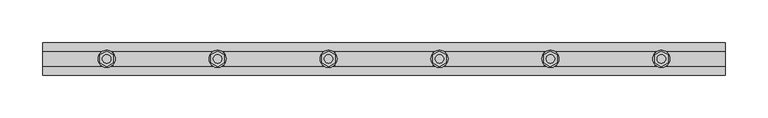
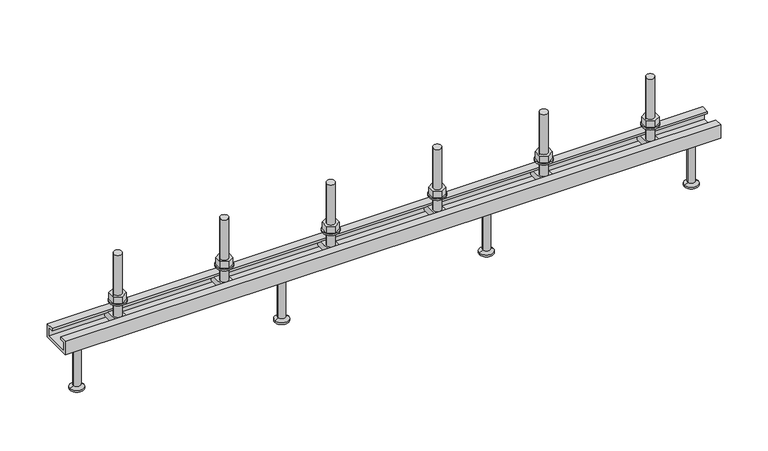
"""IFC4 building model written with IfcOpenShell, lengths in millimetres: fastener geometry, JTA-K JORDAHL® AnchorChannels : JTA-K L=800 mm."""

from ifc_helpers import new_model, si_unit, point, frame, frame_2d, origin, place, context, project, spatial, polyline, circle_curve, trimmed, segment, composite_curve, outline, extrude, source, transform, mapped, element, save
from ifc_brep_helpers import plane_surface, cylinder_surface, revolved_surface, advanced_brep


def fastener_84ff23ae(model_context):
    return source(origin(), model_context, "Body", "SolidModel", [
        extrude(outline(polyline([(595.0, 9.2376043), (603.0, 4.6188022), (603.0, -4.6188022), (595.0, -9.2376043), (587.0, -4.6188022), (587.0, 4.6188022), (595.0, 9.2376043)]), holes=[composite_curve([segment(trimmed(circle_curve(frame_2d((595.0, 0.0)), 5.0), [point((590.0, 0.0))], [point((600.0, 0.0))], True, "CARTESIAN"), True, "CONTINUOUS"), segment(trimmed(circle_curve(frame_2d((595.0, 0.0)), 5.0), [point((600.0, 0.0))], [point((590.0, 0.0))], True, "CARTESIAN"), True, "CONTINUOUS")], self_intersect=False)]), frame((0.0, 0.0, 17.0), z_axis=(0.0, 0.0, 1.0), x_axis=(1.0, 0.0, 0.0)), (0.0, 0.0, 1.0), 8.4),
        extrude(outline(composite_curve([segment(trimmed(circle_curve(frame_2d((595.0, 0.0)), 10.0), [point((585.0, 0.0))], [point((605.0, 0.0))], False, "CARTESIAN"), True, "CONTINUOUS"), segment(trimmed(circle_curve(frame_2d((595.0, 0.0)), 10.0), [point((605.0, 0.0))], [point((585.0, 0.0))], False, "CARTESIAN"), True, "CONTINUOUS")], self_intersect=False), holes=[composite_curve([segment(trimmed(circle_curve(frame_2d((595.0, 0.0)), 5.25), [point((589.75, 0.0))], [point((600.25, 0.0))], True, "CARTESIAN"), True, "CONTINUOUS"), segment(trimmed(circle_curve(frame_2d((595.0, 0.0)), 5.25), [point((600.25, 0.0))], [point((589.75, 0.0))], True, "CARTESIAN"), True, "CONTINUOUS")], self_intersect=False)]), frame((0.0, 0.0, 15.0), z_axis=(0.0, 0.0, 1.0), x_axis=(1.0, 0.0, 0.0)), (0.0, 0.0, 1.0), 2.0),
        extrude(outline(polyline([(465.0, 9.2376043), (473.0, 4.6188022), (473.0, -4.6188022), (465.0, -9.2376043), (457.0, -4.6188022), (457.0, 4.6188022), (465.0, 9.2376043)]), holes=[composite_curve([segment(trimmed(circle_curve(frame_2d((465.0, 0.0)), 5.0), [point((460.0, 0.0))], [point((470.0, 0.0))], True, "CARTESIAN"), True, "CONTINUOUS"), segment(trimmed(circle_curve(frame_2d((465.0, 0.0)), 5.0), [point((470.0, 0.0))], [point((460.0, 0.0))], True, "CARTESIAN"), True, "CONTINUOUS")], self_intersect=False)]), frame((0.0, 0.0, 17.0), z_axis=(0.0, 0.0, 1.0), x_axis=(1.0, 0.0, 0.0)), (0.0, 0.0, 1.0), 8.4),
        extrude(outline(composite_curve([segment(trimmed(circle_curve(frame_2d((465.0, 0.0)), 10.0), [point((455.0, 0.0))], [point((475.0, 0.0))], False, "CARTESIAN"), True, "CONTINUOUS"), segment(trimmed(circle_curve(frame_2d((465.0, 0.0)), 10.0), [point((475.0, 0.0))], [point((455.0, 0.0))], False, "CARTESIAN"), True, "CONTINUOUS")], self_intersect=False), holes=[composite_curve([segment(trimmed(circle_curve(frame_2d((465.0, 0.0)), 5.25), [point((459.75, 0.0))], [point((470.25, 0.0))], True, "CARTESIAN"), True, "CONTINUOUS"), segment(trimmed(circle_curve(frame_2d((465.0, 0.0)), 5.25), [point((470.25, 0.0))], [point((459.75, 0.0))], True, "CARTESIAN"), True, "CONTINUOUS")], self_intersect=False)]), frame((0.0, 0.0, 15.0), z_axis=(0.0, 0.0, 1.0), x_axis=(1.0, 0.0, 0.0)), (0.0, 0.0, 1.0), 2.0),
        extrude(outline(polyline([(335.0, 9.2376043), (343.0, 4.6188022), (343.0, -4.6188022), (335.0, -9.2376043), (327.0, -4.6188022), (327.0, 4.6188022), (335.0, 9.2376043)]), holes=[composite_curve([segment(trimmed(circle_curve(frame_2d((335.0, 0.0)), 5.0), [point((330.0, 0.0))], [point((340.0, 0.0))], True, "CARTESIAN"), True, "CONTINUOUS"), segment(trimmed(circle_curve(frame_2d((335.0, 0.0)), 5.0), [point((340.0, 0.0))], [point((330.0, 0.0))], True, "CARTESIAN"), True, "CONTINUOUS")], self_intersect=False)]), frame((0.0, 0.0, 17.0), z_axis=(0.0, 0.0, 1.0), x_axis=(1.0, 0.0, 0.0)), (0.0, 0.0, 1.0), 8.4),
        extrude(outline(composite_curve([segment(trimmed(circle_curve(frame_2d((335.0, 0.0)), 10.0), [point((325.0, 0.0))], [point((345.0, 0.0))], False, "CARTESIAN"), True, "CONTINUOUS"), segment(trimmed(circle_curve(frame_2d((335.0, 0.0)), 10.0), [point((345.0, 0.0))], [point((325.0, 0.0))], False, "CARTESIAN"), True, "CONTINUOUS")], self_intersect=False), holes=[composite_curve([segment(trimmed(circle_curve(frame_2d((335.0, 0.0)), 5.25), [point((329.75, 0.0))], [point((340.25, 0.0))], True, "CARTESIAN"), True, "CONTINUOUS"), segment(trimmed(circle_curve(frame_2d((335.0, 0.0)), 5.25), [point((340.25, 0.0))], [point((329.75, 0.0))], True, "CARTESIAN"), True, "CONTINUOUS")], self_intersect=False)]), frame((0.0, 0.0, 15.0), z_axis=(0.0, 0.0, 1.0), x_axis=(1.0, 0.0, 0.0)), (0.0, 0.0, 1.0), 2.0),
        extrude(outline(polyline([(205.0, 9.2376043), (213.0, 4.6188022), (213.0, -4.6188022), (205.0, -9.2376043), (197.0, -4.6188022), (197.0, 4.6188022), (205.0, 9.2376043)]), holes=[composite_curve([segment(trimmed(circle_curve(frame_2d((205.0, 0.0)), 5.0), [point((200.0, 0.0))], [point((210.0, 0.0))], True, "CARTESIAN"), True, "CONTINUOUS"), segment(trimmed(circle_curve(frame_2d((205.0, 0.0)), 5.0), [point((210.0, 0.0))], [point((200.0, 0.0))], True, "CARTESIAN"), True, "CONTINUOUS")], self_intersect=False)]), frame((0.0, 0.0, 17.0), z_axis=(0.0, 0.0, 1.0), x_axis=(1.0, 0.0, 0.0)), (0.0, 0.0, 1.0), 8.4),
        extrude(outline(composite_curve([segment(trimmed(circle_curve(frame_2d((205.0, 0.0)), 10.0), [point((195.0, 0.0))], [point((215.0, 0.0))], False, "CARTESIAN"), True, "CONTINUOUS"), segment(trimmed(circle_curve(frame_2d((205.0, 0.0)), 10.0), [point((215.0, 0.0))], [point((195.0, 0.0))], False, "CARTESIAN"), True, "CONTINUOUS")], self_intersect=False), holes=[composite_curve([segment(trimmed(circle_curve(frame_2d((205.0, 0.0)), 5.25), [point((199.75, 0.0))], [point((210.25, 0.0))], True, "CARTESIAN"), True, "CONTINUOUS"), segment(trimmed(circle_curve(frame_2d((205.0, 0.0)), 5.25), [point((210.25, 0.0))], [point((199.75, 0.0))], True, "CARTESIAN"), True, "CONTINUOUS")], self_intersect=False)]), frame((0.0, 0.0, 15.0), z_axis=(0.0, 0.0, 1.0), x_axis=(1.0, 0.0, 0.0)), (0.0, 0.0, 1.0), 2.0),
        advanced_brep(
        [(602.0, 16.0, -3.0), (602.0, -16.0, -3.0), (602.0, -16.0, -11.0), (602.0, 16.0, -11.0), (588.0, 16.0, -3.0), (588.0, 16.0, -11.0), (588.0, -16.0, -11.0), (588.0, -16.0, -3.0), (600.0, 0.0, -3.0), (590.0, 0.0, -3.0), (590.0, 0.0, 77.0), (600.0, 0.0, 77.0)],
        [
            (0, 1),
            (1, 2),
            (2, 3),
            (3, 0),
            (4, 5),
            (5, 6),
            (6, 7),
            (7, 4),
            (0, 4),
            (7, 1),
            (8, 9, circle_curve(frame((595.0, 0.0, -3.0), z_axis=(0.0, 0.0, -1.0), x_axis=(1.0, 0.0, 0.0)), 5.0)),
            (9, 8, circle_curve(frame((595.0, 0.0, -3.0), z_axis=(0.0, 0.0, -1.0), x_axis=(1.0, 0.0, 0.0)), 5.0)),
            (6, 2),
            (5, 3),
            (10, 11, circle_curve(frame((595.0, 0.0, 77.0), z_axis=(0.0, 0.0, 1.0), x_axis=(1.0, 0.0, 0.0)), 5.0)),
            (11, 10, circle_curve(frame((595.0, 0.0, 77.0), z_axis=(0.0, 0.0, 1.0), x_axis=(1.0, 0.0, 0.0)), 5.0)),
            (10, 9),
            (8, 11),
        ],
        [
            plane_surface(frame((602.0, -16.0, -3.0), z_axis=(1.0, 0.0, 0.0), x_axis=(0.0, -1.0, 0.0))),
            plane_surface(frame((588.0, -16.0, -3.0), z_axis=(-1.0, 0.0, 0.0), x_axis=(0.0, 1.0, 0.0))),
            plane_surface(frame((602.0, 16.0, -3.0), z_axis=(0.0, 0.0, 1.0), x_axis=(-1.0, 0.0, 0.0))),
            plane_surface(frame((602.0, -16.0, -3.0), z_axis=(0.0, -1.0, 0.0), x_axis=(-1.0, 0.0, 0.0))),
            plane_surface(frame((602.0, -16.0, -11.0), z_axis=(0.0, 0.0, -1.0), x_axis=(-1.0, 0.0, 0.0))),
            plane_surface(frame((602.0, 16.0, -11.0), z_axis=(0.0, 1.0, 0.0), x_axis=(-1.0, 0.0, 0.0))),
            plane_surface(frame((600.0, 0.0, 77.0), z_axis=(0.0, 0.0, 1.0), x_axis=(0.0, 1.0, 0.0))),
            cylinder_surface(frame((595.0, 0.0, -3.0), z_axis=(0.0, 0.0, 1.0), x_axis=(1.0, 0.0, 0.0)), 5.0),
        ],
        [
            (0, [[1, 2, 3, 4]]),
            (1, [[5, 6, 7, 8]]),
            (2, [[-1, 9, -8, 10], [11, 12]]),
            (3, [[-2, -10, -7, 13]]),
            (4, [[-3, -13, -6, 14]]),
            (5, [[-4, -14, -5, -9]]),
            (6, [[15, 16]]),
            (7, [[-15, 17, -11, 18]]),
            (7, [[-16, -18, -12, -17]]),
        ],
    ),
        advanced_brep(
        [(472.0, 16.0, -3.0), (472.0, -16.0, -3.0), (472.0, -16.0, -11.0), (472.0, 16.0, -11.0), (458.0, 16.0, -3.0), (458.0, 16.0, -11.0), (458.0, -16.0, -11.0), (458.0, -16.0, -3.0), (470.0, 0.0, -3.0), (460.0, 0.0, -3.0), (460.0, 0.0, 77.0), (470.0, 0.0, 77.0)],
        [
            (0, 1),
            (1, 2),
            (2, 3),
            (3, 0),
            (4, 5),
            (5, 6),
            (6, 7),
            (7, 4),
            (0, 4),
            (7, 1),
            (8, 9, circle_curve(frame((465.0, 0.0, -3.0), z_axis=(0.0, 0.0, -1.0), x_axis=(1.0, 0.0, 0.0)), 5.0)),
            (9, 8, circle_curve(frame((465.0, 0.0, -3.0), z_axis=(0.0, 0.0, -1.0), x_axis=(1.0, 0.0, 0.0)), 5.0)),
            (6, 2),
            (5, 3),
            (10, 11, circle_curve(frame((465.0, 0.0, 77.0), z_axis=(0.0, 0.0, 1.0), x_axis=(1.0, 0.0, 0.0)), 5.0)),
            (11, 10, circle_curve(frame((465.0, 0.0, 77.0), z_axis=(0.0, 0.0, 1.0), x_axis=(1.0, 0.0, 0.0)), 5.0)),
            (10, 9),
            (8, 11),
        ],
        [
            plane_surface(frame((472.0, -16.0, -3.0), z_axis=(1.0, 0.0, 0.0), x_axis=(0.0, -1.0, 0.0))),
            plane_surface(frame((458.0, -16.0, -3.0), z_axis=(-1.0, 0.0, 0.0), x_axis=(0.0, 1.0, 0.0))),
            plane_surface(frame((472.0, 16.0, -3.0), z_axis=(0.0, 0.0, 1.0), x_axis=(-1.0, 0.0, 0.0))),
            plane_surface(frame((472.0, -16.0, -3.0), z_axis=(0.0, -1.0, 0.0), x_axis=(-1.0, 0.0, 0.0))),
            plane_surface(frame((472.0, -16.0, -11.0), z_axis=(0.0, 0.0, -1.0), x_axis=(-1.0, 0.0, 0.0))),
            plane_surface(frame((472.0, 16.0, -11.0), z_axis=(0.0, 1.0, 0.0), x_axis=(-1.0, 0.0, 0.0))),
            plane_surface(frame((470.0, 0.0, 77.0), z_axis=(0.0, 0.0, 1.0), x_axis=(0.0, 1.0, 0.0))),
            cylinder_surface(frame((465.0, 0.0, -3.0), z_axis=(0.0, 0.0, 1.0), x_axis=(1.0, 0.0, 0.0)), 5.0),
        ],
        [
            (0, [[1, 2, 3, 4]]),
            (1, [[5, 6, 7, 8]]),
            (2, [[-1, 9, -8, 10], [11, 12]]),
            (3, [[-2, -10, -7, 13]]),
            (4, [[-3, -13, -6, 14]]),
            (5, [[-4, -14, -5, -9]]),
            (6, [[15, 16]]),
            (7, [[-15, 17, -11, 18]]),
            (7, [[-16, -18, -12, -17]]),
        ],
    ),
        advanced_brep(
        [(342.0, 16.0, -3.0), (342.0, -16.0, -3.0), (342.0, -16.0, -11.0), (342.0, 16.0, -11.0), (328.0, 16.0, -3.0), (328.0, 16.0, -11.0), (328.0, -16.0, -11.0), (328.0, -16.0, -3.0), (340.0, 0.0, -3.0), (330.0, 0.0, -3.0), (330.0, 0.0, 77.0), (340.0, 0.0, 77.0)],
        [
            (0, 1),
            (1, 2),
            (2, 3),
            (3, 0),
            (4, 5),
            (5, 6),
            (6, 7),
            (7, 4),
            (0, 4),
            (7, 1),
            (8, 9, circle_curve(frame((335.0, 0.0, -3.0), z_axis=(0.0, 0.0, -1.0), x_axis=(1.0, 0.0, 0.0)), 5.0)),
            (9, 8, circle_curve(frame((335.0, 0.0, -3.0), z_axis=(0.0, 0.0, -1.0), x_axis=(1.0, 0.0, 0.0)), 5.0)),
            (6, 2),
            (5, 3),
            (10, 11, circle_curve(frame((335.0, 0.0, 77.0), z_axis=(0.0, 0.0, 1.0), x_axis=(1.0, 0.0, 0.0)), 5.0)),
            (11, 10, circle_curve(frame((335.0, 0.0, 77.0), z_axis=(0.0, 0.0, 1.0), x_axis=(1.0, 0.0, 0.0)), 5.0)),
            (10, 9),
            (8, 11),
        ],
        [
            plane_surface(frame((342.0, -16.0, -3.0), z_axis=(1.0, 0.0, 0.0), x_axis=(0.0, -1.0, 0.0))),
            plane_surface(frame((328.0, -16.0, -3.0), z_axis=(-1.0, 0.0, 0.0), x_axis=(0.0, 1.0, 0.0))),
            plane_surface(frame((342.0, 16.0, -3.0), z_axis=(0.0, 0.0, 1.0), x_axis=(-1.0, 0.0, 0.0))),
            plane_surface(frame((342.0, -16.0, -3.0), z_axis=(0.0, -1.0, 0.0), x_axis=(-1.0, 0.0, 0.0))),
            plane_surface(frame((342.0, -16.0, -11.0), z_axis=(0.0, 0.0, -1.0), x_axis=(-1.0, 0.0, 0.0))),
            plane_surface(frame((342.0, 16.0, -11.0), z_axis=(0.0, 1.0, 0.0), x_axis=(-1.0, 0.0, 0.0))),
            plane_surface(frame((340.0, 0.0, 77.0), z_axis=(0.0, 0.0, 1.0), x_axis=(0.0, 1.0, 0.0))),
            cylinder_surface(frame((335.0, 0.0, -3.0), z_axis=(0.0, 0.0, 1.0), x_axis=(1.0, 0.0, 0.0)), 5.0),
        ],
        [
            (0, [[1, 2, 3, 4]]),
            (1, [[5, 6, 7, 8]]),
            (2, [[-1, 9, -8, 10], [11, 12]]),
            (3, [[-2, -10, -7, 13]]),
            (4, [[-3, -13, -6, 14]]),
            (5, [[-4, -14, -5, -9]]),
            (6, [[15, 16]]),
            (7, [[-15, 17, -11, 18]]),
            (7, [[-16, -18, -12, -17]]),
        ],
    ),
        advanced_brep(
        [(212.0, 16.0, -3.0), (212.0, -16.0, -3.0), (212.0, -16.0, -11.0), (212.0, 16.0, -11.0), (198.0, 16.0, -3.0), (198.0, 16.0, -11.0), (198.0, -16.0, -11.0), (198.0, -16.0, -3.0), (210.0, 0.0, -3.0), (200.0, 0.0, -3.0), (200.0, 0.0, 77.0), (210.0, 0.0, 77.0)],
        [
            (0, 1),
            (1, 2),
            (2, 3),
            (3, 0),
            (4, 5),
            (5, 6),
            (6, 7),
            (7, 4),
            (0, 4),
            (7, 1),
            (8, 9, circle_curve(frame((205.0, 0.0, -3.0), z_axis=(0.0, 0.0, -1.0), x_axis=(1.0, 0.0, 0.0)), 5.0)),
            (9, 8, circle_curve(frame((205.0, 0.0, -3.0), z_axis=(0.0, 0.0, -1.0), x_axis=(1.0, 0.0, 0.0)), 5.0)),
            (6, 2),
            (5, 3),
            (10, 11, circle_curve(frame((205.0, 0.0, 77.0), z_axis=(0.0, 0.0, 1.0), x_axis=(1.0, 0.0, 0.0)), 5.0)),
            (11, 10, circle_curve(frame((205.0, 0.0, 77.0), z_axis=(0.0, 0.0, 1.0), x_axis=(1.0, 0.0, 0.0)), 5.0)),
            (10, 9),
            (8, 11),
        ],
        [
            plane_surface(frame((212.0, -16.0, -3.0), z_axis=(1.0, 0.0, 0.0), x_axis=(0.0, -1.0, 0.0))),
            plane_surface(frame((198.0, -16.0, -3.0), z_axis=(-1.0, 0.0, 0.0), x_axis=(0.0, 1.0, 0.0))),
            plane_surface(frame((212.0, 16.0, -3.0), z_axis=(0.0, 0.0, 1.0), x_axis=(-1.0, 0.0, 0.0))),
            plane_surface(frame((212.0, -16.0, -3.0), z_axis=(0.0, -1.0, 0.0), x_axis=(-1.0, 0.0, 0.0))),
            plane_surface(frame((212.0, -16.0, -11.0), z_axis=(0.0, 0.0, -1.0), x_axis=(-1.0, 0.0, 0.0))),
            plane_surface(frame((212.0, 16.0, -11.0), z_axis=(0.0, 1.0, 0.0), x_axis=(-1.0, 0.0, 0.0))),
            plane_surface(frame((210.0, 0.0, 77.0), z_axis=(0.0, 0.0, 1.0), x_axis=(0.0, 1.0, 0.0))),
            cylinder_surface(frame((205.0, 0.0, -3.0), z_axis=(0.0, 0.0, 1.0), x_axis=(1.0, 0.0, 0.0)), 5.0),
        ],
        [
            (0, [[1, 2, 3, 4]]),
            (1, [[5, 6, 7, 8]]),
            (2, [[-1, 9, -8, 10], [11, 12]]),
            (3, [[-2, -10, -7, 13]]),
            (4, [[-3, -13, -6, 14]]),
            (5, [[-4, -14, -5, -9]]),
            (6, [[15, 16]]),
            (7, [[-15, 17, -11, 18]]),
            (7, [[-16, -18, -12, -17]]),
        ],
    ),
        advanced_brep(
        [(525.0, 0.0, -17.0), (538.5, 0.0, -17.0), (511.5, 0.0, -17.0), (516.5, 0.0, -80.0), (533.5, 0.0, -80.0), (525.0, 0.0, -80.0), (516.5, 0.0, -78.0), (533.5, 0.0, -78.0), (520.5, 0.0, -75.6905989), (529.5, 0.0, -75.6905989), (520.5, 0.0, -19.5), (529.5, 0.0, -19.5)],
        [
            (0, 1),
            (1, 2, circle_curve(frame((525.0, 0.0, -17.0), z_axis=(0.0, 0.0, 1.0), x_axis=(1.0, 0.0, 0.0)), 13.5)),
            (2, 0),
            (2, 1, circle_curve(frame((525.0, 0.0, -17.0), z_axis=(0.0, 0.0, 1.0), x_axis=(1.0, 0.0, 0.0)), 13.5)),
            (3, 4, circle_curve(frame((525.0, 0.0, -80.0), z_axis=(0.0, 0.0, -1.0), x_axis=(1.0, 0.0, 0.0)), 8.5)),
            (4, 5),
            (5, 3),
            (4, 3, circle_curve(frame((525.0, 0.0, -80.0), z_axis=(0.0, 0.0, -1.0), x_axis=(1.0, 0.0, 0.0)), 8.5)),
            (6, 7, circle_curve(frame((525.0, 0.0, -78.0), z_axis=(0.0, 0.0, -1.0), x_axis=(1.0, 0.0, 0.0)), 8.5)),
            (7, 4),
            (3, 6),
            (7, 6, circle_curve(frame((525.0, 0.0, -78.0), z_axis=(0.0, 0.0, -1.0), x_axis=(1.0, 0.0, 0.0)), 8.5)),
            (8, 9, circle_curve(frame((525.0, 0.0, -75.6905989), z_axis=(0.0, 0.0, -1.0), x_axis=(1.0, 0.0, 0.0)), 4.5)),
            (9, 7),
            (6, 8),
            (9, 8, circle_curve(frame((525.0, 0.0, -75.6905989), z_axis=(0.0, 0.0, -1.0), x_axis=(1.0, 0.0, 0.0)), 4.5)),
            (10, 11, circle_curve(frame((525.0, 0.0, -19.5), z_axis=(0.0, 0.0, -1.0), x_axis=(1.0, 0.0, 0.0)), 4.5)),
            (11, 9),
            (8, 10),
            (11, 10, circle_curve(frame((525.0, 0.0, -19.5), z_axis=(0.0, 0.0, -1.0), x_axis=(1.0, 0.0, 0.0)), 4.5)),
            (1, 11),
            (10, 2),
        ],
        [
            plane_surface(frame((525.0, 0.0, -17.0), z_axis=(0.0, 0.0, 1.0), x_axis=(1.0, 0.0, 0.0))),
            plane_surface(frame((525.0, 0.0, -80.0), z_axis=(0.0, 0.0, -1.0), x_axis=(1.0, 0.0, 0.0))),
            cylinder_surface(frame((525.0, 0.0, 2277.3150031), z_axis=(0.0, 0.0, 1.0), x_axis=(1.0, 0.0, 0.0)), 8.5),
            revolved_surface(polyline([(533.5, 0.0, -78.0), (529.5, 0.0, -75.6905989)]), (525.0, 0.0, 2277.3150031), (0.0, 0.0, 1.0)),
            cylinder_surface(frame((525.0, 0.0, 2277.3150031), z_axis=(0.0, 0.0, 1.0), x_axis=(1.0, 0.0, 0.0)), 4.5),
            revolved_surface(polyline([(529.5, 0.0, -19.5), (538.5, 0.0, -17.0)]), (525.0, 0.0, 2277.3150031), (0.0, 0.0, 1.0)),
        ],
        [
            (0, [[1, 2, 3]]),
            (0, [[-3, 4, -1]]),
            (1, [[5, 6, 7]]),
            (1, [[8, -7, -6]]),
            (2, [[9, 10, -5, 11]]),
            (2, [[12, -11, -8, -10]]),
            (3, [[13, 14, -9, 15]]),
            (3, [[16, -15, -12, -14]]),
            (4, [[17, 18, -13, 19]]),
            (4, [[20, -19, -16, -18]]),
            (5, [[-2, 21, -17, 22]]),
            (5, [[-4, -22, -20, -21]]),
        ],
    ),
        advanced_brep(
        [(275.0, 0.0, -17.0), (288.5, 0.0, -17.0), (261.5, 0.0, -17.0), (266.5, 0.0, -80.0), (283.5, 0.0, -80.0), (275.0, 0.0, -80.0), (266.5, 0.0, -78.0), (283.5, 0.0, -78.0), (270.5, 0.0, -75.6905989), (279.5, 0.0, -75.6905989), (270.5, 0.0, -19.5), (279.5, 0.0, -19.5)],
        [
            (0, 1),
            (1, 2, circle_curve(frame((275.0, 0.0, -17.0), z_axis=(0.0, 0.0, 1.0), x_axis=(1.0, 0.0, 0.0)), 13.5)),
            (2, 0),
            (2, 1, circle_curve(frame((275.0, 0.0, -17.0), z_axis=(0.0, 0.0, 1.0), x_axis=(1.0, 0.0, 0.0)), 13.5)),
            (3, 4, circle_curve(frame((275.0, 0.0, -80.0), z_axis=(0.0, 0.0, -1.0), x_axis=(1.0, 0.0, 0.0)), 8.5)),
            (4, 5),
            (5, 3),
            (4, 3, circle_curve(frame((275.0, 0.0, -80.0), z_axis=(0.0, 0.0, -1.0), x_axis=(1.0, 0.0, 0.0)), 8.5)),
            (6, 7, circle_curve(frame((275.0, 0.0, -78.0), z_axis=(0.0, 0.0, -1.0), x_axis=(1.0, 0.0, 0.0)), 8.5)),
            (7, 4),
            (3, 6),
            (7, 6, circle_curve(frame((275.0, 0.0, -78.0), z_axis=(0.0, 0.0, -1.0), x_axis=(1.0, 0.0, 0.0)), 8.5)),
            (8, 9, circle_curve(frame((275.0, 0.0, -75.6905989), z_axis=(0.0, 0.0, -1.0), x_axis=(1.0, 0.0, 0.0)), 4.5)),
            (9, 7),
            (6, 8),
            (9, 8, circle_curve(frame((275.0, 0.0, -75.6905989), z_axis=(0.0, 0.0, -1.0), x_axis=(1.0, 0.0, 0.0)), 4.5)),
            (10, 11, circle_curve(frame((275.0, 0.0, -19.5), z_axis=(0.0, 0.0, -1.0), x_axis=(1.0, 0.0, 0.0)), 4.5)),
            (11, 9),
            (8, 10),
            (11, 10, circle_curve(frame((275.0, 0.0, -19.5), z_axis=(0.0, 0.0, -1.0), x_axis=(1.0, 0.0, 0.0)), 4.5)),
            (1, 11),
            (10, 2),
        ],
        [
            plane_surface(frame((275.0, 0.0, -17.0), z_axis=(0.0, 0.0, 1.0), x_axis=(1.0, 0.0, 0.0))),
            plane_surface(frame((275.0, 0.0, -80.0), z_axis=(0.0, 0.0, -1.0), x_axis=(1.0, 0.0, 0.0))),
            cylinder_surface(frame((275.0, 0.0, 2277.3150031), z_axis=(0.0, 0.0, 1.0), x_axis=(1.0, 0.0, 0.0)), 8.5),
            revolved_surface(polyline([(283.5, 0.0, -78.0), (279.5, 0.0, -75.6905989)]), (275.0, 0.0, 2277.3150031), (0.0, 0.0, 1.0)),
            cylinder_surface(frame((275.0, 0.0, 2277.3150031), z_axis=(0.0, 0.0, 1.0), x_axis=(1.0, 0.0, 0.0)), 4.5),
            revolved_surface(polyline([(279.5, 0.0, -19.5), (288.5, 0.0, -17.0)]), (275.0, 0.0, 2277.3150031), (0.0, 0.0, 1.0)),
        ],
        [
            (0, [[1, 2, 3]]),
            (0, [[-3, 4, -1]]),
            (1, [[5, 6, 7]]),
            (1, [[8, -7, -6]]),
            (2, [[9, 10, -5, 11]]),
            (2, [[12, -11, -8, -10]]),
            (3, [[13, 14, -9, 15]]),
            (3, [[16, -15, -12, -14]]),
            (4, [[17, 18, -13, 19]]),
            (4, [[20, -19, -16, -18]]),
            (5, [[-2, 21, -17, 22]]),
            (5, [[-4, -22, -20, -21]]),
        ],
    ),
        extrude(outline(polyline([(725.0, 9.2376043), (733.0, 4.6188022), (733.0, -4.6188022), (725.0, -9.2376043), (717.0, -4.6188022), (717.0, 4.6188022), (725.0, 9.2376043)]), holes=[composite_curve([segment(trimmed(circle_curve(frame_2d((725.0, 0.0)), 5.0), [point((720.0, 0.0))], [point((730.0, 0.0))], True, "CARTESIAN"), True, "CONTINUOUS"), segment(trimmed(circle_curve(frame_2d((725.0, 0.0)), 5.0), [point((730.0, 0.0))], [point((720.0, 0.0))], True, "CARTESIAN"), True, "CONTINUOUS")], self_intersect=False)]), frame((0.0, 0.0, 17.0), z_axis=(0.0, 0.0, 1.0), x_axis=(1.0, 0.0, 0.0)), (0.0, 0.0, 1.0), 8.4),
        extrude(outline(composite_curve([segment(trimmed(circle_curve(frame_2d((725.0, 0.0)), 10.0), [point((715.0, 0.0))], [point((735.0, 0.0))], False, "CARTESIAN"), True, "CONTINUOUS"), segment(trimmed(circle_curve(frame_2d((725.0, 0.0)), 10.0), [point((735.0, 0.0))], [point((715.0, 0.0))], False, "CARTESIAN"), True, "CONTINUOUS")], self_intersect=False), holes=[composite_curve([segment(trimmed(circle_curve(frame_2d((725.0, 0.0)), 5.25), [point((719.75, 0.0))], [point((730.25, 0.0))], True, "CARTESIAN"), True, "CONTINUOUS"), segment(trimmed(circle_curve(frame_2d((725.0, 0.0)), 5.25), [point((730.25, 0.0))], [point((719.75, 0.0))], True, "CARTESIAN"), True, "CONTINUOUS")], self_intersect=False)]), frame((0.0, 0.0, 15.0), z_axis=(0.0, 0.0, 1.0), x_axis=(1.0, 0.0, 0.0)), (0.0, 0.0, 1.0), 2.0),
        extrude(outline(polyline([(75.0, 9.2376043), (83.0, 4.6188022), (83.0, -4.6188022), (75.0, -9.2376043), (67.0, -4.6188022), (67.0, 4.6188022), (75.0, 9.2376043)]), holes=[composite_curve([segment(trimmed(circle_curve(frame_2d((75.0, 0.0)), 5.0), [point((70.0, 0.0))], [point((80.0, 0.0))], True, "CARTESIAN"), True, "CONTINUOUS"), segment(trimmed(circle_curve(frame_2d((75.0, 0.0)), 5.0), [point((80.0, 0.0))], [point((70.0, 0.0))], True, "CARTESIAN"), True, "CONTINUOUS")], self_intersect=False)]), frame((0.0, 0.0, 17.0), z_axis=(0.0, 0.0, 1.0), x_axis=(1.0, 0.0, 0.0)), (0.0, 0.0, 1.0), 8.4),
        extrude(outline(composite_curve([segment(trimmed(circle_curve(frame_2d((75.0, 0.0)), 10.0), [point((65.0, 0.0))], [point((85.0, 0.0))], False, "CARTESIAN"), True, "CONTINUOUS"), segment(trimmed(circle_curve(frame_2d((75.0, 0.0)), 10.0), [point((85.0, 0.0))], [point((65.0, 0.0))], False, "CARTESIAN"), True, "CONTINUOUS")], self_intersect=False), holes=[composite_curve([segment(trimmed(circle_curve(frame_2d((75.0, 0.0)), 5.25), [point((69.75, 0.0))], [point((80.25, 0.0))], True, "CARTESIAN"), True, "CONTINUOUS"), segment(trimmed(circle_curve(frame_2d((75.0, 0.0)), 5.25), [point((80.25, 0.0))], [point((69.75, 0.0))], True, "CARTESIAN"), True, "CONTINUOUS")], self_intersect=False)]), frame((0.0, 0.0, 15.0), z_axis=(0.0, 0.0, 1.0), x_axis=(1.0, 0.0, 0.0)), (0.0, 0.0, 1.0), 2.0),
        advanced_brep(
        [(732.0, 16.0, -3.0), (732.0, -16.0, -3.0), (732.0, -16.0, -11.0), (732.0, 16.0, -11.0), (718.0, 16.0, -3.0), (718.0, 16.0, -11.0), (718.0, -16.0, -11.0), (718.0, -16.0, -3.0), (730.0, 0.0, -3.0), (720.0, 0.0, -3.0), (720.0, 0.0, 77.0), (730.0, 0.0, 77.0)],
        [
            (0, 1),
            (1, 2),
            (2, 3),
            (3, 0),
            (4, 5),
            (5, 6),
            (6, 7),
            (7, 4),
            (0, 4),
            (7, 1),
            (8, 9, circle_curve(frame((725.0, 0.0, -3.0), z_axis=(0.0, 0.0, -1.0), x_axis=(1.0, 0.0, 0.0)), 5.0)),
            (9, 8, circle_curve(frame((725.0, 0.0, -3.0), z_axis=(0.0, 0.0, -1.0), x_axis=(1.0, 0.0, 0.0)), 5.0)),
            (6, 2),
            (5, 3),
            (10, 11, circle_curve(frame((725.0, 0.0, 77.0), z_axis=(0.0, 0.0, 1.0), x_axis=(1.0, 0.0, 0.0)), 5.0)),
            (11, 10, circle_curve(frame((725.0, 0.0, 77.0), z_axis=(0.0, 0.0, 1.0), x_axis=(1.0, 0.0, 0.0)), 5.0)),
            (10, 9),
            (8, 11),
        ],
        [
            plane_surface(frame((732.0, -16.0, -3.0), z_axis=(1.0, 0.0, 0.0), x_axis=(0.0, -1.0, 0.0))),
            plane_surface(frame((718.0, -16.0, -3.0), z_axis=(-1.0, 0.0, 0.0), x_axis=(0.0, 1.0, 0.0))),
            plane_surface(frame((732.0, 16.0, -3.0), z_axis=(0.0, 0.0, 1.0), x_axis=(-1.0, 0.0, 0.0))),
            plane_surface(frame((732.0, -16.0, -3.0), z_axis=(0.0, -1.0, 0.0), x_axis=(-1.0, 0.0, 0.0))),
            plane_surface(frame((732.0, -16.0, -11.0), z_axis=(0.0, 0.0, -1.0), x_axis=(-1.0, 0.0, 0.0))),
            plane_surface(frame((732.0, 16.0, -11.0), z_axis=(0.0, 1.0, 0.0), x_axis=(-1.0, 0.0, 0.0))),
            plane_surface(frame((730.0, 0.0, 77.0), z_axis=(0.0, 0.0, 1.0), x_axis=(0.0, 1.0, 0.0))),
            cylinder_surface(frame((725.0, 0.0, -3.0), z_axis=(0.0, 0.0, 1.0), x_axis=(1.0, 0.0, 0.0)), 5.0),
        ],
        [
            (0, [[1, 2, 3, 4]]),
            (1, [[5, 6, 7, 8]]),
            (2, [[-1, 9, -8, 10], [11, 12]]),
            (3, [[-2, -10, -7, 13]]),
            (4, [[-3, -13, -6, 14]]),
            (5, [[-4, -14, -5, -9]]),
            (6, [[15, 16]]),
            (7, [[-15, 17, -11, 18]]),
            (7, [[-16, -18, -12, -17]]),
        ],
    ),
        advanced_brep(
        [(82.0, 16.0, -3.0), (82.0, -16.0, -3.0), (82.0, -16.0, -11.0), (82.0, 16.0, -11.0), (68.0, 16.0, -3.0), (68.0, 16.0, -11.0), (68.0, -16.0, -11.0), (68.0, -16.0, -3.0), (80.0, 0.0, -3.0), (70.0, 0.0, -3.0), (70.0, 0.0, 77.0), (80.0, 0.0, 77.0)],
        [
            (0, 1),
            (1, 2),
            (2, 3),
            (3, 0),
            (4, 5),
            (5, 6),
            (6, 7),
            (7, 4),
            (0, 4),
            (7, 1),
            (8, 9, circle_curve(frame((75.0, 0.0, -3.0), z_axis=(0.0, 0.0, -1.0), x_axis=(1.0, 0.0, 0.0)), 5.0)),
            (9, 8, circle_curve(frame((75.0, 0.0, -3.0), z_axis=(0.0, 0.0, -1.0), x_axis=(1.0, 0.0, 0.0)), 5.0)),
            (6, 2),
            (5, 3),
            (10, 11, circle_curve(frame((75.0, 0.0, 77.0), z_axis=(0.0, 0.0, 1.0), x_axis=(1.0, 0.0, 0.0)), 5.0)),
            (11, 10, circle_curve(frame((75.0, 0.0, 77.0), z_axis=(0.0, 0.0, 1.0), x_axis=(1.0, 0.0, 0.0)), 5.0)),
            (10, 9),
            (8, 11),
        ],
        [
            plane_surface(frame((82.0, -16.0, -3.0), z_axis=(1.0, 0.0, 0.0), x_axis=(0.0, -1.0, 0.0))),
            plane_surface(frame((68.0, -16.0, -3.0), z_axis=(-1.0, 0.0, 0.0), x_axis=(0.0, 1.0, 0.0))),
            plane_surface(frame((82.0, 16.0, -3.0), z_axis=(0.0, 0.0, 1.0), x_axis=(-1.0, 0.0, 0.0))),
            plane_surface(frame((82.0, -16.0, -3.0), z_axis=(0.0, -1.0, 0.0), x_axis=(-1.0, 0.0, 0.0))),
            plane_surface(frame((82.0, -16.0, -11.0), z_axis=(0.0, 0.0, -1.0), x_axis=(-1.0, 0.0, 0.0))),
            plane_surface(frame((82.0, 16.0, -11.0), z_axis=(0.0, 1.0, 0.0), x_axis=(-1.0, 0.0, 0.0))),
            plane_surface(frame((80.0, 0.0, 77.0), z_axis=(0.0, 0.0, 1.0), x_axis=(0.0, 1.0, 0.0))),
            cylinder_surface(frame((75.0, 0.0, -3.0), z_axis=(0.0, 0.0, 1.0), x_axis=(1.0, 0.0, 0.0)), 5.0),
        ],
        [
            (0, [[1, 2, 3, 4]]),
            (1, [[5, 6, 7, 8]]),
            (2, [[-1, 9, -8, 10], [11, 12]]),
            (3, [[-2, -10, -7, 13]]),
            (4, [[-3, -13, -6, 14]]),
            (5, [[-4, -14, -5, -9]]),
            (6, [[15, 16]]),
            (7, [[-15, 17, -11, 18]]),
            (7, [[-16, -18, -12, -17]]),
        ],
    ),
        advanced_brep(
        [(775.0, 0.0, -17.0), (788.5, 0.0, -17.0), (761.5, 0.0, -17.0), (766.5, 0.0, -80.0), (783.5, 0.0, -80.0), (775.0, 0.0, -80.0), (766.5, 0.0, -78.0), (783.5, 0.0, -78.0), (770.5, 0.0, -75.6905989), (779.5, 0.0, -75.6905989), (770.5, 0.0, -19.5), (779.5, 0.0, -19.5)],
        [
            (0, 1),
            (1, 2, circle_curve(frame((775.0, 0.0, -17.0), z_axis=(0.0, 0.0, 1.0), x_axis=(1.0, 0.0, 0.0)), 13.5)),
            (2, 0),
            (2, 1, circle_curve(frame((775.0, 0.0, -17.0), z_axis=(0.0, 0.0, 1.0), x_axis=(1.0, 0.0, 0.0)), 13.5)),
            (3, 4, circle_curve(frame((775.0, 0.0, -80.0), z_axis=(0.0, 0.0, -1.0), x_axis=(1.0, 0.0, 0.0)), 8.5)),
            (4, 5),
            (5, 3),
            (4, 3, circle_curve(frame((775.0, 0.0, -80.0), z_axis=(0.0, 0.0, -1.0), x_axis=(1.0, 0.0, 0.0)), 8.5)),
            (6, 7, circle_curve(frame((775.0, 0.0, -78.0), z_axis=(0.0, 0.0, -1.0), x_axis=(1.0, 0.0, 0.0)), 8.5)),
            (7, 4),
            (3, 6),
            (7, 6, circle_curve(frame((775.0, 0.0, -78.0), z_axis=(0.0, 0.0, -1.0), x_axis=(1.0, 0.0, 0.0)), 8.5)),
            (8, 9, circle_curve(frame((775.0, 0.0, -75.6905989), z_axis=(0.0, 0.0, -1.0), x_axis=(1.0, 0.0, 0.0)), 4.5)),
            (9, 7),
            (6, 8),
            (9, 8, circle_curve(frame((775.0, 0.0, -75.6905989), z_axis=(0.0, 0.0, -1.0), x_axis=(1.0, 0.0, 0.0)), 4.5)),
            (10, 11, circle_curve(frame((775.0, 0.0, -19.5), z_axis=(0.0, 0.0, -1.0), x_axis=(1.0, 0.0, 0.0)), 4.5)),
            (11, 9),
            (8, 10),
            (11, 10, circle_curve(frame((775.0, 0.0, -19.5), z_axis=(0.0, 0.0, -1.0), x_axis=(1.0, 0.0, 0.0)), 4.5)),
            (1, 11),
            (10, 2),
        ],
        [
            plane_surface(frame((775.0, 0.0, -17.0), z_axis=(0.0, 0.0, 1.0), x_axis=(1.0, 0.0, 0.0))),
            plane_surface(frame((775.0, 0.0, -80.0), z_axis=(0.0, 0.0, -1.0), x_axis=(1.0, 0.0, 0.0))),
            cylinder_surface(frame((775.0, 0.0, 2277.3150031), z_axis=(0.0, 0.0, 1.0), x_axis=(1.0, 0.0, 0.0)), 8.5),
            revolved_surface(polyline([(783.5, 0.0, -78.0), (779.5, 0.0, -75.6905989)]), (775.0, 0.0, 2277.3150031), (0.0, 0.0, 1.0)),
            cylinder_surface(frame((775.0, 0.0, 2277.3150031), z_axis=(0.0, 0.0, 1.0), x_axis=(1.0, 0.0, 0.0)), 4.5),
            revolved_surface(polyline([(779.5, 0.0, -19.5), (788.5, 0.0, -17.0)]), (775.0, 0.0, 2277.3150031), (0.0, 0.0, 1.0)),
        ],
        [
            (0, [[1, 2, 3]]),
            (0, [[-3, 4, -1]]),
            (1, [[5, 6, 7]]),
            (1, [[8, -7, -6]]),
            (2, [[9, 10, -5, 11]]),
            (2, [[12, -11, -8, -10]]),
            (3, [[13, 14, -9, 15]]),
            (3, [[16, -15, -12, -14]]),
            (4, [[17, 18, -13, 19]]),
            (4, [[20, -19, -16, -18]]),
            (5, [[-2, 21, -17, 22]]),
            (5, [[-4, -22, -20, -21]]),
        ],
    ),
        advanced_brep(
        [(25.0, 0.0, -17.0), (38.5, 0.0, -17.0), (11.5, 0.0, -17.0), (16.5, 0.0, -80.0), (33.5, 0.0, -80.0), (25.0, 0.0, -80.0), (16.5, 0.0, -78.0), (33.5, 0.0, -78.0), (20.5, 0.0, -75.6905989), (29.5, 0.0, -75.6905989), (20.5, 0.0, -19.5), (29.5, 0.0, -19.5)],
        [
            (0, 1),
            (1, 2, circle_curve(frame((25.0, 0.0, -17.0), z_axis=(0.0, 0.0, 1.0), x_axis=(1.0, 0.0, 0.0)), 13.5)),
            (2, 0),
            (2, 1, circle_curve(frame((25.0, 0.0, -17.0), z_axis=(0.0, 0.0, 1.0), x_axis=(1.0, 0.0, 0.0)), 13.5)),
            (3, 4, circle_curve(frame((25.0, 0.0, -80.0), z_axis=(0.0, 0.0, -1.0), x_axis=(1.0, 0.0, 0.0)), 8.5)),
            (4, 5),
            (5, 3),
            (4, 3, circle_curve(frame((25.0, 0.0, -80.0), z_axis=(0.0, 0.0, -1.0), x_axis=(1.0, 0.0, 0.0)), 8.5)),
            (6, 7, circle_curve(frame((25.0, 0.0, -78.0), z_axis=(0.0, 0.0, -1.0), x_axis=(1.0, 0.0, 0.0)), 8.5)),
            (7, 4),
            (3, 6),
            (7, 6, circle_curve(frame((25.0, 0.0, -78.0), z_axis=(0.0, 0.0, -1.0), x_axis=(1.0, 0.0, 0.0)), 8.5)),
            (8, 9, circle_curve(frame((25.0, 0.0, -75.6905989), z_axis=(0.0, 0.0, -1.0), x_axis=(1.0, 0.0, 0.0)), 4.5)),
            (9, 7),
            (6, 8),
            (9, 8, circle_curve(frame((25.0, 0.0, -75.6905989), z_axis=(0.0, 0.0, -1.0), x_axis=(1.0, 0.0, 0.0)), 4.5)),
            (10, 11, circle_curve(frame((25.0, 0.0, -19.5), z_axis=(0.0, 0.0, -1.0), x_axis=(1.0, 0.0, 0.0)), 4.5)),
            (11, 9),
            (8, 10),
            (11, 10, circle_curve(frame((25.0, 0.0, -19.5), z_axis=(0.0, 0.0, -1.0), x_axis=(1.0, 0.0, 0.0)), 4.5)),
            (1, 11),
            (10, 2),
        ],
        [
            plane_surface(frame((25.0, 0.0, -17.0), z_axis=(0.0, 0.0, 1.0), x_axis=(1.0, 0.0, 0.0))),
            plane_surface(frame((25.0, 0.0, -80.0), z_axis=(0.0, 0.0, -1.0), x_axis=(1.0, 0.0, 0.0))),
            cylinder_surface(frame((25.0, 0.0, 2277.3150031), z_axis=(0.0, 0.0, 1.0), x_axis=(1.0, 0.0, 0.0)), 8.5),
            revolved_surface(polyline([(33.5, 0.0, -78.0), (29.5, 0.0, -75.6905989)]), (25.0, 0.0, 2277.3150031), (0.0, 0.0, 1.0)),
            cylinder_surface(frame((25.0, 0.0, 2277.3150031), z_axis=(0.0, 0.0, 1.0), x_axis=(1.0, 0.0, 0.0)), 4.5),
            revolved_surface(polyline([(29.5, 0.0, -19.5), (38.5, 0.0, -17.0)]), (25.0, 0.0, 2277.3150031), (0.0, 0.0, 1.0)),
        ],
        [
            (0, [[1, 2, 3]]),
            (0, [[-3, 4, -1]]),
            (1, [[5, 6, 7]]),
            (1, [[8, -7, -6]]),
            (2, [[9, 10, -5, 11]]),
            (2, [[12, -11, -8, -10]]),
            (3, [[13, 14, -9, 15]]),
            (3, [[16, -15, -12, -14]]),
            (4, [[17, 18, -13, 19]]),
            (4, [[20, -19, -16, -18]]),
            (5, [[-2, 21, -17, 22]]),
            (5, [[-4, -22, -20, -21]]),
        ],
    ),
        extrude(outline(polyline([(19.0, 0.0), (19.0, -17.0), (-19.0, -17.0), (-19.0, 0.0), (-9.0, 0.0), (-9.0, -3.0), (-16.0, -3.0), (-16.0, -14.0), (16.0, -14.0), (16.0, -3.0), (9.0, -3.0), (9.0, 0.0), (19.0, 0.0)])), frame((0.0, 0.0, 0.0), z_axis=(1.0, 0.0, 0.0), x_axis=(0.0, 1.0, 0.0)), (0.0, 0.0, 1.0), 800.0),
    ])


if __name__ == "__main__":
    model = new_model("IFC4")
    model_context = context("Model", 3, world=origin())
    ifc_project = project(units=[si_unit("LENGTHUNIT", "METRE", prefix="MILLI")], contexts=[model_context])
    site = spatial("IfcSite", under=ifc_project)
    building = spatial("IfcBuilding", under=site)
    placement = place(None, origin())
    fastener_shape = fastener_84ff23ae(model_context)
    element("IfcFastener", 1, ObjectType="JTA-K JORDAHL® AnchorChannels : JTA-K L=800 mm", at=placement, inside=building, context=model_context, shape_type="MappedRepresentation", body=[
        mapped(fastener_shape, transform((0.0, 0.0, 0.0), x_axis=(1.0, 0.0, 0.0), y_axis=(0.0, 1.0, 0.0), z_axis=(0.0, 0.0, 1.0))),
    ])
    save(model, "model.ifc")
